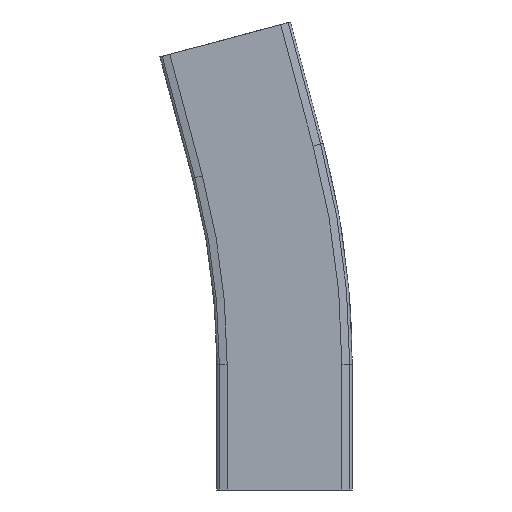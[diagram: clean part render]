
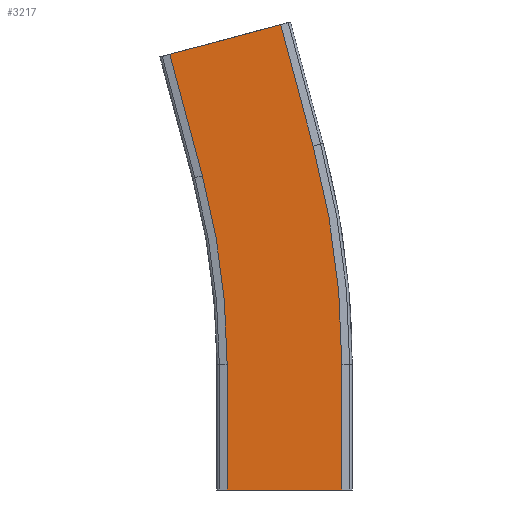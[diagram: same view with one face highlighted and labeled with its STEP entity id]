
A CAD part, front view. The second image highlights one B-rep face of the part: STEP entity #3217.
In plain terms, the highlighted planar face has unit normal (0, -1, 0).
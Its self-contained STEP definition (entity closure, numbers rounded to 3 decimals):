
#327=FACE_OUTER_BOUND('',#499,.T.);
#499=EDGE_LOOP('',(#2925,#2926,#2927,#2928,#2929,#2930,#2931,#2932));
#577=CIRCLE('',#3458,536.5);
#580=CIRCLE('',#3464,463.5);
#894=LINE('',#5537,#1236);
#899=LINE('',#5546,#1241);
#901=LINE('',#5551,#1243);
#916=LINE('',#5591,#1258);
#921=LINE('',#5602,#1263);
#922=LINE('',#5604,#1264);
#1236=VECTOR('',#4203,10.);
#1241=VECTOR('',#4210,10.);
#1243=VECTOR('',#4214,10.);
#1258=VECTOR('',#4255,10.);
#1263=VECTOR('',#4268,10.);
#1264=VECTOR('',#4271,10.);
#1544=VERTEX_POINT('',#5534);
#1545=VERTEX_POINT('',#5536);
#1548=VERTEX_POINT('',#5543);
#1549=VERTEX_POINT('',#5548);
#1559=VERTEX_POINT('',#5574);
#1561=VERTEX_POINT('',#5584);
#1562=VERTEX_POINT('',#5589);
#1564=VERTEX_POINT('',#5600);
#1988=EDGE_CURVE('',#1545,#1544,#894,.T.);
#1993=EDGE_CURVE('',#1545,#1548,#899,.T.);
#1995=EDGE_CURVE('',#1544,#1549,#901,.T.);
#2008=EDGE_CURVE('',#1549,#1559,#577,.T.);
#2014=EDGE_CURVE('',#1548,#1561,#580,.T.);
#2016=EDGE_CURVE('',#1559,#1562,#916,.T.);
#2021=EDGE_CURVE('',#1561,#1564,#921,.T.);
#2022=EDGE_CURVE('',#1562,#1564,#922,.T.);
#2925=ORIENTED_EDGE('',*,*,#2022,.T.);
#2926=ORIENTED_EDGE('',*,*,#2021,.F.);
#2927=ORIENTED_EDGE('',*,*,#2014,.F.);
#2928=ORIENTED_EDGE('',*,*,#1993,.F.);
#2929=ORIENTED_EDGE('',*,*,#1988,.T.);
#2930=ORIENTED_EDGE('',*,*,#1995,.T.);
#2931=ORIENTED_EDGE('',*,*,#2008,.T.);
#2932=ORIENTED_EDGE('',*,*,#2016,.T.);
#3050=PLANE('',#3470);
#3217=ADVANCED_FACE('',(#327),#3050,.T.);
#3458=AXIS2_PLACEMENT_3D('',#5576,#4235,#4236);
#3464=AXIS2_PLACEMENT_3D('',#5587,#4250,#4251);
#3470=AXIS2_PLACEMENT_3D('',#5603,#4269,#4270);
#4203=DIRECTION('',(1.,0.,0.));
#4210=DIRECTION('',(0.,0.,1.));
#4214=DIRECTION('',(0.,0.,1.));
#4235=DIRECTION('center_axis',(0.,-1.,0.));
#4236=DIRECTION('ref_axis',(1.,0.,0.));
#4250=DIRECTION('center_axis',(0.,-1.,0.));
#4251=DIRECTION('ref_axis',(1.,0.,0.));
#4255=DIRECTION('',(-0.259,0.,0.966));
#4268=DIRECTION('',(-0.259,0.,0.966));
#4269=DIRECTION('center_axis',(0.,-1.,0.));
#4270=DIRECTION('ref_axis',(0.259,0.,-0.966));
#4271=DIRECTION('',(-0.966,0.,-0.259));
#5534=CARTESIAN_POINT('',(36.5,-11.,0.));
#5536=CARTESIAN_POINT('',(-36.5,-11.,0.));
#5537=CARTESIAN_POINT('',(-36.5,-11.,0.));
#5543=CARTESIAN_POINT('',(-36.5,-11.,80.));
#5546=CARTESIAN_POINT('',(-36.5,-11.,0.));
#5548=CARTESIAN_POINT('',(36.5,-11.,80.));
#5551=CARTESIAN_POINT('',(36.5,-11.,0.));
#5574=CARTESIAN_POINT('',(18.219,-11.,218.856));
#5576=CARTESIAN_POINT('Origin',(-500.,-11.,80.));
#5584=CARTESIAN_POINT('',(-52.293,-11.,199.963));
#5587=CARTESIAN_POINT('Origin',(-500.,-11.,80.));
#5589=CARTESIAN_POINT('',(-2.486,-11.,296.13));
#5591=CARTESIAN_POINT('',(72.804,-11.,15.143));
#5600=CARTESIAN_POINT('',(-72.999,-11.,277.237));
#5602=CARTESIAN_POINT('',(2.291,-11.,-3.751));
#5603=CARTESIAN_POINT('Origin',(72.804,-11.,15.143));
#5604=CARTESIAN_POINT('',(-18.666,-11.,291.795));
